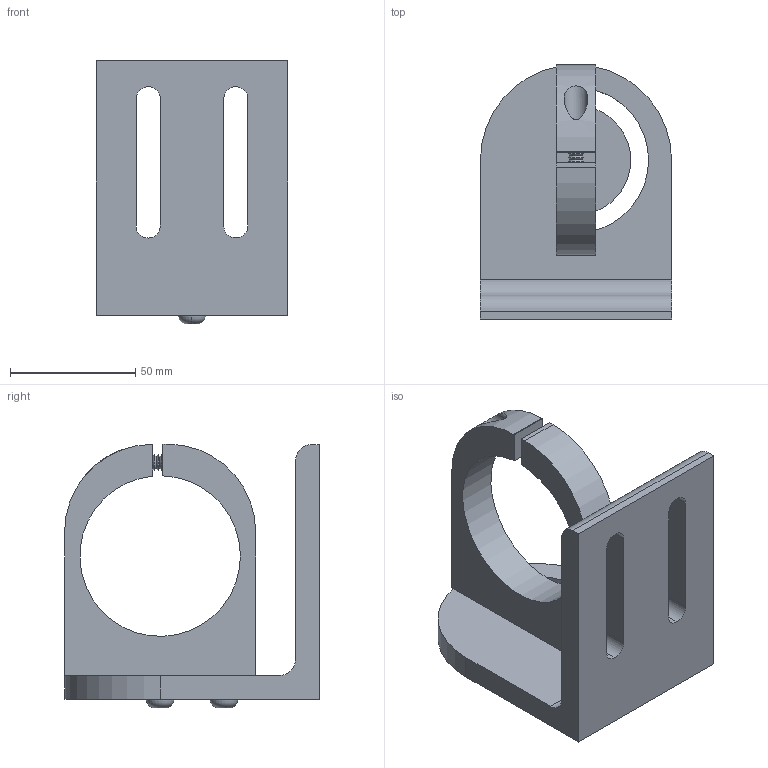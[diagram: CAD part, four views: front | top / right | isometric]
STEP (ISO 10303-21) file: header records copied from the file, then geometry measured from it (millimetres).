
FILE_DESCRIPTION (( 'STEP AP203' ), '1' );
FILE_NAME ('A-202-4.STEP', '2008-08-11T22:39:49', ( 'ANDREW' ), ( 'SIMONDS INC' ), 'SwSTEP 2.0', 'SolidWorks 2008', '' );
FILE_SCHEMA (( 'CONFIG_CONTROL_DESIGN' ));
Length unit declared in the file: millimetre
Products named in the file (5): A-202-4; A-200-1-1; A-200-1-4; A-202-2-1; A-200-1-5
Assembly tree (5 placements, depth 2):
  A-202-4
    A-202-2-1  x2
    A-200-1-5
    A-200-1-1
    A-200-1-4
Bounding box: 76.2 x 101.6 x 105.13 mm (x, y, z)
Volume: 168686.2 mm3; surface area: 51665.7 mm2
Topology: 5 solids, 5 shells, 215 faces, 466 edges, 272 vertices
Faces by surface type: cone 114, plane 53, cylinder 42, torus 6
Entity records: 5103 total; most frequent: DIRECTION 864, CARTESIAN_POINT 823, ORIENTED_EDGE 720, EDGE_CURVE 360, AXIS2_PLACEMENT_3D 335, VERTEX_POINT 214, VECTOR 194, LINE 194
